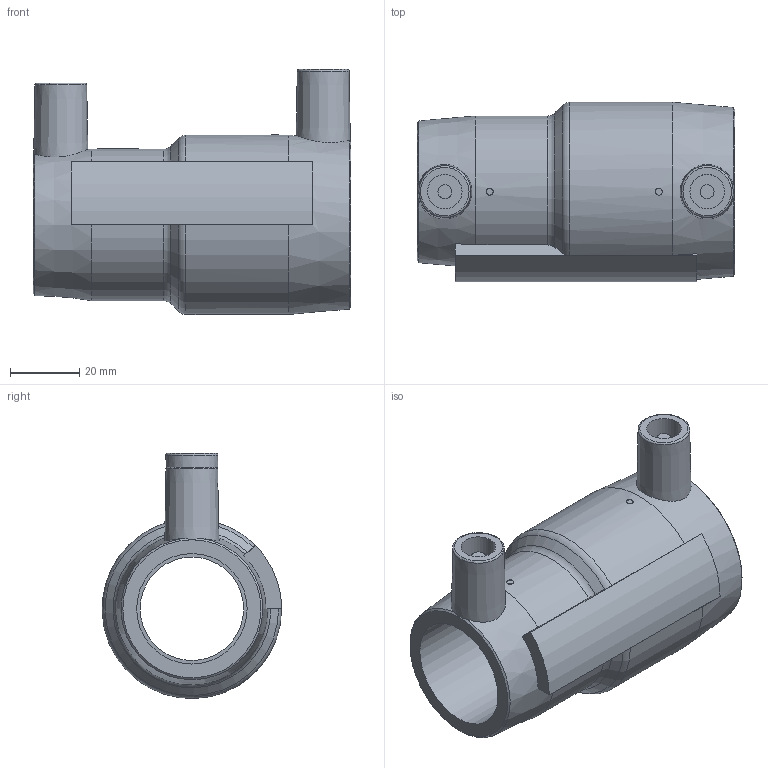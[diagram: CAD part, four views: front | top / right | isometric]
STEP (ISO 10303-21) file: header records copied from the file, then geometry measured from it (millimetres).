
FILE_DESCRIPTION(/* description */ ('Unknown'),/* implementation_level */ '2;1');
FILE_NAME(/* name */ 'REP040032C',/* time_stamp */ '2021-05-24T15:58:45+02:00',/* author */ ('Unknown'),/* organization */ ('Unknown'),/* preprocessor_version */ 'ST-DEVELOPER v16.7',/* originating_system */ 'Solid Edge',/* authorisation */ 'Unknown');
FILE_SCHEMA (('AUTOMOTIVE_DESIGN {1 0 10303 214 3 1 1}'));
Length unit declared in the file: millimetre
Products named in the file (1): REP040032C
Bounding box: 92 x 52.01 x 70.99 mm (x, y, z)
Volume: 78949.8 mm3; surface area: 30043.7 mm2
Topology: 1 solids, 1 shells, 39 faces, 85 edges, 56 vertices
Faces by surface type: plane 16, cylinder 12, cone 7, torus 4
Full cylindrical faces by diameter (mm): 2 x2, 4 x2, 10 x2, 30 x1, 32 x1, 40 x1
Entity records: 1006 total; most frequent: CARTESIAN_POINT 220, DIRECTION 165, ORIENTED_EDGE 120, AXIS2_PLACEMENT_3D 76, EDGE_LOOP 66, FACE_BOUND 66, EDGE_CURVE 60, VERTEX_POINT 48
